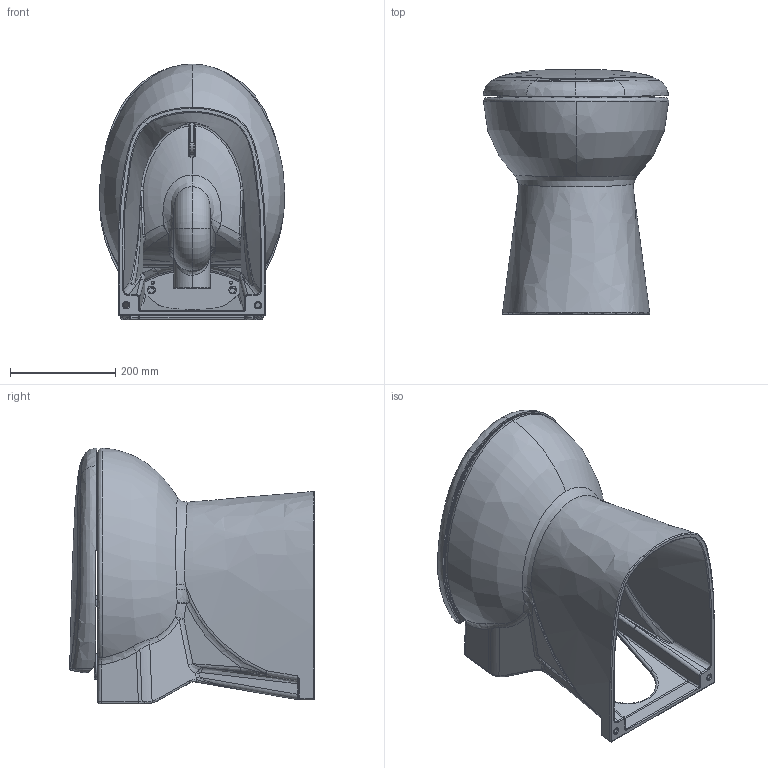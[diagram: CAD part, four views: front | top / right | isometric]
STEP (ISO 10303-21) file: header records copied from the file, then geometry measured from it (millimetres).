
FILE_DESCRIPTION (( 'STEP AP203' ), '1' );
FILE_NAME ('SANIMARIN 41 B.STEP', '2024-02-23T10:21:09', ( '' ), ( '' ), 'SwSTEP 2.0', 'SolidWorks 2021', '' );
FILE_SCHEMA (( 'CONFIG_CONTROL_DESIGN' ));
Products named in the file (1): SANIMARIN 41 B
Bounding box: 352.68 x 465.34 x 486.8 mm (x, y, z)
Volume: 8317403.1 mm3; surface area: 1931407.7 mm2
Topology: 23 solids, 23 shells, 2407 faces, 6134 edges, 3784 vertices
Faces by surface type: bspline 941, cylinder 615, plane 535, cone 231, torus 58, sphere 27
Entity records: 198418 total; most frequent: CARTESIAN_POINT 149335, ORIENTED_EDGE 12154, DIRECTION 7395, EDGE_CURVE 6077, VERTEX_POINT 3780, AXIS2_PLACEMENT_3D 2823, EDGE_LOOP 2605, B_SPLINE_CURVE_WITH_KNOTS 2598
